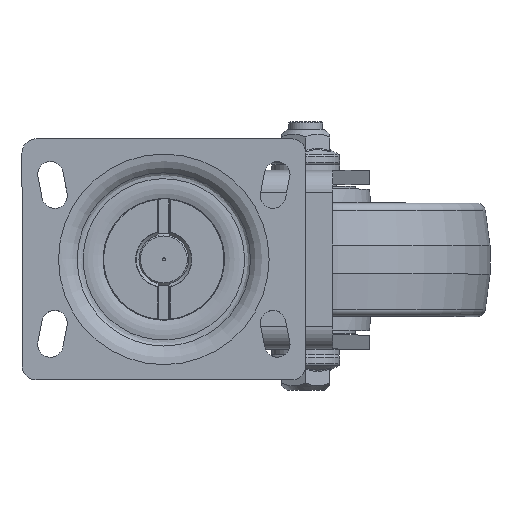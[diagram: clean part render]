
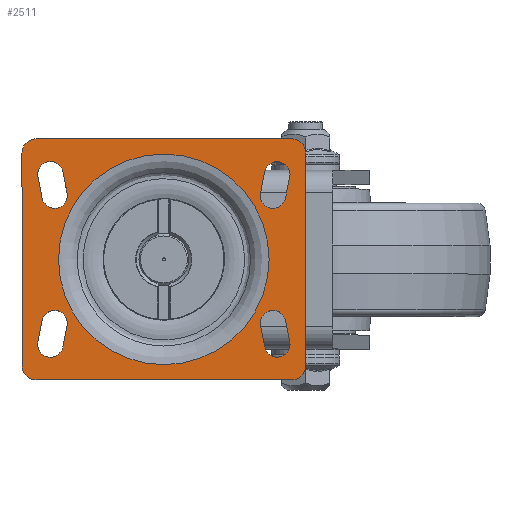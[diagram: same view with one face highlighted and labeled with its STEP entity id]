
A CAD part, top view. The second image highlights one B-rep face of the part: STEP entity #2511.
In plain terms, the highlighted planar face has unit normal (0, 0, 1).
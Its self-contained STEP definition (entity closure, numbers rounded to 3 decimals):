
#1445=CARTESIAN_POINT('',(145.552,-172.888,179.377));
#1446=VERTEX_POINT('',#1445);
#1447=CARTESIAN_POINT('',(182.675,-172.888,179.377));
#1448=DIRECTION('',(0.0,0.0,1.0));
#1449=DIRECTION('',(-1.0,0.0,0.0));
#1450=AXIS2_PLACEMENT_3D('',#1447,#1448,#1449);
#1451=CIRCLE('',#1450,37.123);
#1452=EDGE_CURVE('',#1446,#1446,#1451,.T.);
#1661=CARTESIAN_POINT('',(132.675,-210.388,179.377));
#1662=VERTEX_POINT('',#1661);
#1669=CARTESIAN_POINT('',(132.675,-135.388,179.377));
#1670=VERTEX_POINT('',#1669);
#1671=CARTESIAN_POINT('',(132.675,-210.388,179.377));
#1672=DIRECTION('',(0.0,1.0,0.0));
#1673=VECTOR('',#1672,75.);
#1674=LINE('',#1671,#1673);
#1675=EDGE_CURVE('',#1662,#1670,#1674,.T.);
#1700=CARTESIAN_POINT('',(137.675,-215.388,179.377));
#1701=VERTEX_POINT('',#1700);
#1708=CARTESIAN_POINT('',(137.675,-210.388,179.377));
#1709=DIRECTION('',(0.0,0.0,-1.0));
#1710=DIRECTION('',(1.0,0.0,0.0));
#1711=AXIS2_PLACEMENT_3D('',#1708,#1709,#1710);
#1712=CIRCLE('',#1711,5.);
#1713=EDGE_CURVE('',#1701,#1662,#1712,.T.);
#1732=CARTESIAN_POINT('',(227.675,-215.388,179.377));
#1733=VERTEX_POINT('',#1732);
#1740=CARTESIAN_POINT('',(227.675,-215.388,179.377));
#1741=DIRECTION('',(-1.0,0.0,0.0));
#1742=VECTOR('',#1741,90.0);
#1743=LINE('',#1740,#1742);
#1744=EDGE_CURVE('',#1733,#1701,#1743,.T.);
#1764=CARTESIAN_POINT('',(232.675,-210.388,179.377));
#1765=VERTEX_POINT('',#1764);
#1772=CARTESIAN_POINT('',(227.675,-210.388,179.377));
#1773=DIRECTION('',(0.0,0.0,-1.0));
#1774=DIRECTION('',(1.0,0.0,0.0));
#1775=AXIS2_PLACEMENT_3D('',#1772,#1773,#1774);
#1776=CIRCLE('',#1775,5.);
#1777=EDGE_CURVE('',#1765,#1733,#1776,.T.);
#1796=CARTESIAN_POINT('',(232.675,-135.388,179.377));
#1797=VERTEX_POINT('',#1796);
#1804=CARTESIAN_POINT('',(232.675,-135.388,179.377));
#1805=DIRECTION('',(0.0,-1.0,0.0));
#1806=VECTOR('',#1805,75.0);
#1807=LINE('',#1804,#1806);
#1808=EDGE_CURVE('',#1797,#1765,#1807,.T.);
#1828=CARTESIAN_POINT('',(227.675,-130.388,179.377));
#1829=VERTEX_POINT('',#1828);
#1836=CARTESIAN_POINT('',(227.675,-135.388,179.377));
#1837=DIRECTION('',(0.0,0.0,-1.0));
#1838=DIRECTION('',(1.0,0.0,0.0));
#1839=AXIS2_PLACEMENT_3D('',#1836,#1837,#1838);
#1840=CIRCLE('',#1839,5.);
#1841=EDGE_CURVE('',#1829,#1797,#1840,.T.);
#1860=CARTESIAN_POINT('',(137.675,-130.388,179.377));
#1861=VERTEX_POINT('',#1860);
#1868=CARTESIAN_POINT('',(137.675,-130.388,179.377));
#1869=DIRECTION('',(1.0,0.0,0.0));
#1870=VECTOR('',#1869,90.);
#1871=LINE('',#1868,#1870);
#1872=EDGE_CURVE('',#1861,#1829,#1871,.T.);
#1891=CARTESIAN_POINT('',(137.675,-135.388,179.377));
#1892=DIRECTION('',(0.0,0.0,-1.0));
#1893=DIRECTION('',(1.0,0.0,0.0));
#1894=AXIS2_PLACEMENT_3D('',#1891,#1892,#1893);
#1895=CIRCLE('',#1894,5.);
#1896=EDGE_CURVE('',#1670,#1861,#1895,.T.);
#1918=CARTESIAN_POINT('',(147.088,-142.005,179.377));
#1919=VERTEX_POINT('',#1918);
#1926=CARTESIAN_POINT('',(138.263,-143.77,179.377));
#1927=VERTEX_POINT('',#1926);
#1928=CARTESIAN_POINT('',(142.675,-142.888,179.377));
#1929=DIRECTION('',(0.0,0.0,-1.0));
#1930=DIRECTION('',(1.0,0.0,0.0));
#1931=AXIS2_PLACEMENT_3D('',#1928,#1929,#1930);
#1932=CIRCLE('',#1931,4.5);
#1933=EDGE_CURVE('',#1927,#1919,#1932,.T.);
#1957=CARTESIAN_POINT('',(148.588,-149.505,179.377));
#1958=VERTEX_POINT('',#1957);
#1965=CARTESIAN_POINT('',(147.088,-142.005,179.377));
#1966=DIRECTION('',(0.196,-0.981,0.0));
#1967=VECTOR('',#1966,7.649);
#1968=LINE('',#1965,#1967);
#1969=EDGE_CURVE('',#1919,#1958,#1968,.T.);
#1989=CARTESIAN_POINT('',(139.763,-151.27,179.377));
#1990=VERTEX_POINT('',#1989);
#1997=CARTESIAN_POINT('',(144.175,-150.388,179.377));
#1998=DIRECTION('',(0.0,0.0,-1.0));
#1999=DIRECTION('',(1.0,0.0,0.0));
#2000=AXIS2_PLACEMENT_3D('',#1997,#1998,#1999);
#2001=CIRCLE('',#2000,4.5);
#2002=EDGE_CURVE('',#1958,#1990,#2001,.T.);
#2020=CARTESIAN_POINT('',(139.763,-151.27,179.377));
#2021=DIRECTION('',(-0.196,0.981,0.0));
#2022=VECTOR('',#2021,7.649);
#2023=LINE('',#2020,#2022);
#2024=EDGE_CURVE('',#1990,#1927,#2023,.T.);
#2045=CARTESIAN_POINT('',(225.588,-151.27,179.377));
#2046=VERTEX_POINT('',#2045);
#2053=CARTESIAN_POINT('',(227.088,-143.77,179.377));
#2054=VERTEX_POINT('',#2053);
#2055=CARTESIAN_POINT('',(227.088,-143.77,179.377));
#2056=DIRECTION('',(-0.196,-0.981,0.0));
#2057=VECTOR('',#2056,7.649);
#2058=LINE('',#2055,#2057);
#2059=EDGE_CURVE('',#2054,#2046,#2058,.T.);
#2084=CARTESIAN_POINT('',(216.763,-149.505,179.377));
#2085=VERTEX_POINT('',#2084);
#2092=CARTESIAN_POINT('',(221.175,-150.388,179.377));
#2093=DIRECTION('',(0.0,0.0,-1.0));
#2094=DIRECTION('',(1.0,0.0,0.0));
#2095=AXIS2_PLACEMENT_3D('',#2092,#2093,#2094);
#2096=CIRCLE('',#2095,4.5);
#2097=EDGE_CURVE('',#2046,#2085,#2096,.T.);
#2116=CARTESIAN_POINT('',(218.263,-142.005,179.377));
#2117=VERTEX_POINT('',#2116);
#2124=CARTESIAN_POINT('',(216.763,-149.505,179.377));
#2125=DIRECTION('',(0.196,0.981,0.0));
#2126=VECTOR('',#2125,7.649);
#2127=LINE('',#2124,#2126);
#2128=EDGE_CURVE('',#2085,#2117,#2127,.T.);
#2147=CARTESIAN_POINT('',(222.675,-142.888,179.377));
#2148=DIRECTION('',(0.0,0.0,-1.0));
#2149=DIRECTION('',(1.0,0.0,0.0));
#2150=AXIS2_PLACEMENT_3D('',#2147,#2148,#2149);
#2151=CIRCLE('',#2150,4.5);
#2152=EDGE_CURVE('',#2117,#2054,#2151,.T.);
#2173=CARTESIAN_POINT('',(227.088,-202.005,179.377));
#2174=VERTEX_POINT('',#2173);
#2181=CARTESIAN_POINT('',(225.588,-194.505,179.377));
#2182=VERTEX_POINT('',#2181);
#2183=CARTESIAN_POINT('',(225.588,-194.505,179.377));
#2184=DIRECTION('',(0.196,-0.981,0.0));
#2185=VECTOR('',#2184,7.649);
#2186=LINE('',#2183,#2185);
#2187=EDGE_CURVE('',#2182,#2174,#2186,.T.);
#2212=CARTESIAN_POINT('',(218.263,-203.77,179.377));
#2213=VERTEX_POINT('',#2212);
#2220=CARTESIAN_POINT('',(222.675,-202.888,179.377));
#2221=DIRECTION('',(0.0,0.0,-1.0));
#2222=DIRECTION('',(1.0,0.0,0.0));
#2223=AXIS2_PLACEMENT_3D('',#2220,#2221,#2222);
#2224=CIRCLE('',#2223,4.5);
#2225=EDGE_CURVE('',#2174,#2213,#2224,.T.);
#2244=CARTESIAN_POINT('',(216.763,-196.27,179.377));
#2245=VERTEX_POINT('',#2244);
#2252=CARTESIAN_POINT('',(218.263,-203.77,179.377));
#2253=DIRECTION('',(-0.196,0.981,0.0));
#2254=VECTOR('',#2253,7.649);
#2255=LINE('',#2252,#2254);
#2256=EDGE_CURVE('',#2213,#2245,#2255,.T.);
#2275=CARTESIAN_POINT('',(221.175,-195.388,179.377));
#2276=DIRECTION('',(0.0,0.0,-1.0));
#2277=DIRECTION('',(1.0,0.0,0.0));
#2278=AXIS2_PLACEMENT_3D('',#2275,#2276,#2277);
#2279=CIRCLE('',#2278,4.5);
#2280=EDGE_CURVE('',#2245,#2182,#2279,.T.);
#2301=CARTESIAN_POINT('',(139.763,-194.505,179.377));
#2302=VERTEX_POINT('',#2301);
#2309=CARTESIAN_POINT('',(138.263,-202.005,179.377));
#2310=VERTEX_POINT('',#2309);
#2311=CARTESIAN_POINT('',(138.263,-202.005,179.377));
#2312=DIRECTION('',(0.196,0.981,0.0));
#2313=VECTOR('',#2312,7.649);
#2314=LINE('',#2311,#2313);
#2315=EDGE_CURVE('',#2310,#2302,#2314,.T.);
#2340=CARTESIAN_POINT('',(148.588,-196.27,179.377));
#2341=VERTEX_POINT('',#2340);
#2348=CARTESIAN_POINT('',(144.175,-195.388,179.377));
#2349=DIRECTION('',(0.0,0.0,-1.0));
#2350=DIRECTION('',(1.0,0.0,0.0));
#2351=AXIS2_PLACEMENT_3D('',#2348,#2349,#2350);
#2352=CIRCLE('',#2351,4.5);
#2353=EDGE_CURVE('',#2302,#2341,#2352,.T.);
#2372=CARTESIAN_POINT('',(147.088,-203.77,179.377));
#2373=VERTEX_POINT('',#2372);
#2380=CARTESIAN_POINT('',(148.588,-196.27,179.377));
#2381=DIRECTION('',(-0.196,-0.981,0.0));
#2382=VECTOR('',#2381,7.649);
#2383=LINE('',#2380,#2382);
#2384=EDGE_CURVE('',#2341,#2373,#2383,.T.);
#2403=CARTESIAN_POINT('',(142.675,-202.888,179.377));
#2404=DIRECTION('',(0.0,0.0,-1.0));
#2405=DIRECTION('',(1.0,0.0,0.0));
#2406=AXIS2_PLACEMENT_3D('',#2403,#2404,#2405);
#2407=CIRCLE('',#2406,4.5);
#2408=EDGE_CURVE('',#2373,#2310,#2407,.T.);
#2469=CARTESIAN_POINT('',(144.562,-172.888,179.377));
#2470=DIRECTION('',(0.0,0.0,1.0));
#2471=DIRECTION('',(0.0,-1.0,0.0));
#2472=AXIS2_PLACEMENT_3D('',#2469,#2470,#2471);
#2473=PLANE('',#2472);
#2474=ORIENTED_EDGE('',*,*,#1896,.F.);
#2475=ORIENTED_EDGE('',*,*,#1675,.F.);
#2476=ORIENTED_EDGE('',*,*,#1713,.F.);
#2477=ORIENTED_EDGE('',*,*,#1744,.F.);
#2478=ORIENTED_EDGE('',*,*,#1777,.F.);
#2479=ORIENTED_EDGE('',*,*,#1808,.F.);
#2480=ORIENTED_EDGE('',*,*,#1841,.F.);
#2481=ORIENTED_EDGE('',*,*,#1872,.F.);
#2482=EDGE_LOOP('',(#2474,#2475,#2476,#2477,#2478,#2479,#2480,#2481));
#2483=FACE_OUTER_BOUND('',#2482,.T.);
#2484=ORIENTED_EDGE('',*,*,#2024,.T.);
#2485=ORIENTED_EDGE('',*,*,#1933,.T.);
#2486=ORIENTED_EDGE('',*,*,#1969,.T.);
#2487=ORIENTED_EDGE('',*,*,#2002,.T.);
#2488=EDGE_LOOP('',(#2484,#2485,#2486,#2487));
#2489=FACE_BOUND('',#2488,.T.);
#2490=ORIENTED_EDGE('',*,*,#2152,.T.);
#2491=ORIENTED_EDGE('',*,*,#2059,.T.);
#2492=ORIENTED_EDGE('',*,*,#2097,.T.);
#2493=ORIENTED_EDGE('',*,*,#2128,.T.);
#2494=EDGE_LOOP('',(#2490,#2491,#2492,#2493));
#2495=FACE_BOUND('',#2494,.T.);
#2496=ORIENTED_EDGE('',*,*,#2280,.T.);
#2497=ORIENTED_EDGE('',*,*,#2187,.T.);
#2498=ORIENTED_EDGE('',*,*,#2225,.T.);
#2499=ORIENTED_EDGE('',*,*,#2256,.T.);
#2500=EDGE_LOOP('',(#2496,#2497,#2498,#2499));
#2501=FACE_BOUND('',#2500,.T.);
#2502=ORIENTED_EDGE('',*,*,#2408,.T.);
#2503=ORIENTED_EDGE('',*,*,#2315,.T.);
#2504=ORIENTED_EDGE('',*,*,#2353,.T.);
#2505=ORIENTED_EDGE('',*,*,#2384,.T.);
#2506=EDGE_LOOP('',(#2502,#2503,#2504,#2505));
#2507=FACE_BOUND('',#2506,.T.);
#2508=ORIENTED_EDGE('',*,*,#1452,.F.);
#2509=EDGE_LOOP('',(#2508));
#2510=FACE_BOUND('',#2509,.T.);
#2511=ADVANCED_FACE('',(#2483,#2489,#2495,#2501,#2507,#2510),#2473,.T.);
